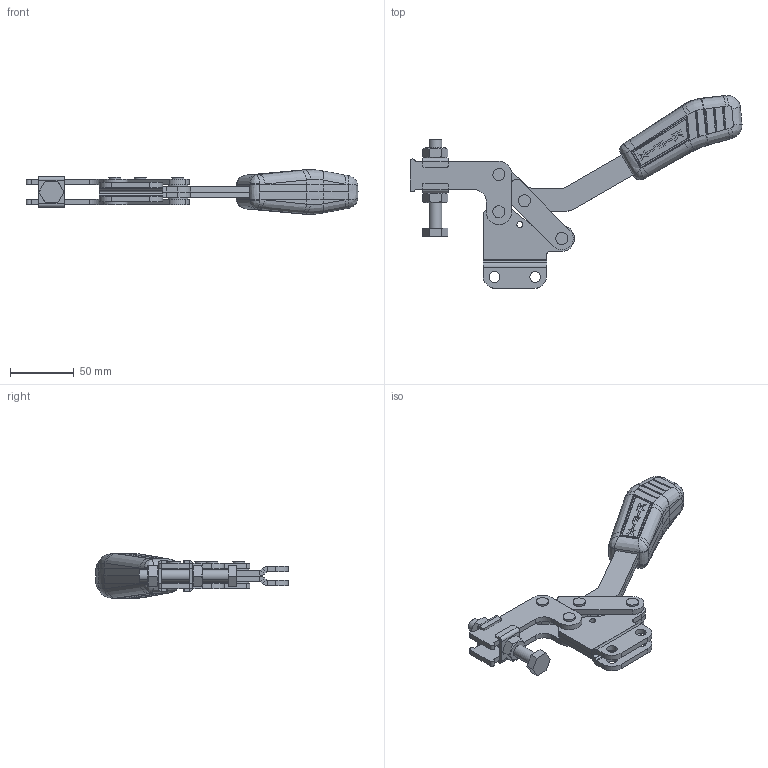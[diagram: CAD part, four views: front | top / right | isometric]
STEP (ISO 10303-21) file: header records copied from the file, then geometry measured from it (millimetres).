
FILE_DESCRIPTION (( 'STEP AP203' ), '1' );
FILE_NAME ('KF-541 RI.STEP', '2014-08-18T17:25:37', ( 'Ricardo' ), ( '' ), 'SwSTEP 2.0', 'SolidWorks 2013', '' );
FILE_SCHEMA (( 'CONFIG_CONTROL_DESIGN' ));
Length unit declared in the file: millimetre
Products named in the file (12): 06.50026; 07.60002; 14.10003; 12.50021; 02.11034_Direita; 11.50003; 02.11034_Esquerda; 17.50002; 01.10044; KF-541 RI; 03.13018; 08.10008
Assembly tree (26 placements, depth 2):
  KF-541 RI
    02.11034_Direita
    02.11034_Esquerda
    01.10044  x2
    03.13018  x2
    08.10008  x2
    06.50026  x4
    07.60002
    14.10003  x2
    12.50021
    11.50003  x2
    17.50002  x8
Bounding box: 261.3 x 151.86 x 35.03 mm (x, y, z)
Volume: 185492.7 mm3; surface area: 81635.5 mm2
Topology: 26 solids, 26 shells, 826 faces, 2014 edges, 1249 vertices
Faces by surface type: plane 288, cylinder 234, bspline 157, cone 92, sphere 52, torus 3
Entity records: 23693 total; most frequent: CARTESIAN_POINT 8897, ORIENTED_EDGE 2990, DIRECTION 2354, EDGE_CURVE 1495, VERTEX_POINT 940, AXIS2_PLACEMENT_3D 890, EDGE_LOOP 663, FACE_OUTER_BOUND 600
